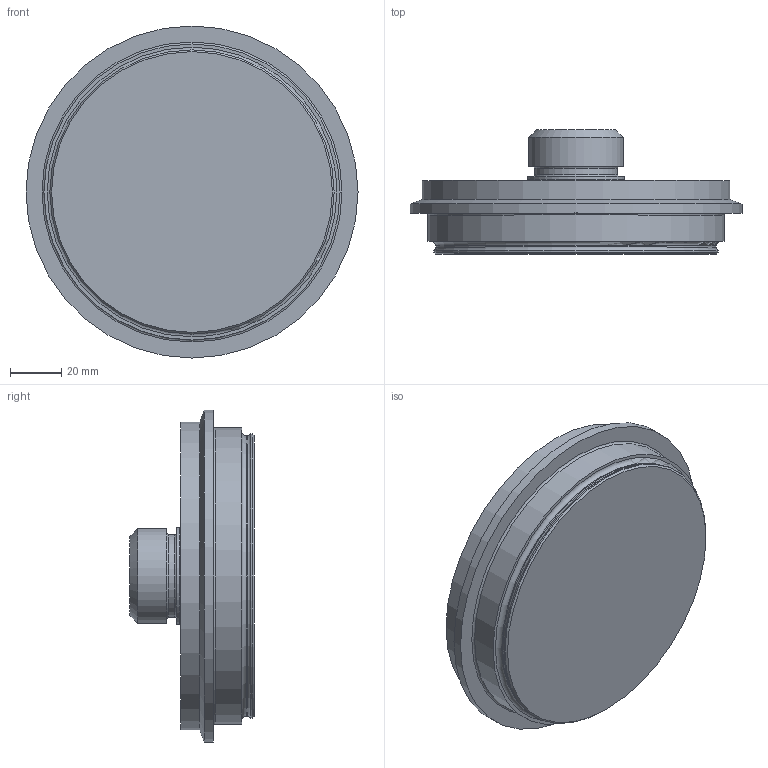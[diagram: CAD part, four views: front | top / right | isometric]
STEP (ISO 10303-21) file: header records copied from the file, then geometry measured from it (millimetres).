
FILE_DESCRIPTION(/* description */ ('STEP AP214'),/* implementation_level */ '2;1');
FILE_NAME(/* name */ 'C:\V\Delavan\Designs\Customer Shell Models\Valves\W61\WCB_w60_actuators_controltops_adapters_step_tcm11-10646 (2)\102410 4.STEP',/* time_stamp */ '2021-04-21T13:04:14+06:00',/* author */ ('H7M44K'),/* organization */ (''),/* preprocessor_version */ 'ST-DEVELOPER v18.1',/* originating_system */ 'Autodesk Inventor 2020',/* authorisation */ '');
FILE_SCHEMA (('AUTOMOTIVE_DESIGN { 1 0 10303 214 3 1 1 }'));
Length unit declared in the file: inch
Products named in the file (1): 102410
Bounding box: 130.18 x 48.77 x 130.18 mm (x, y, z)
Volume: 339653.5 mm3; surface area: 39084.5 mm2
Topology: 1 solids, 1 shells, 24 faces, 68 edges, 51 vertices
Faces by surface type: cylinder 8, plane 7, torus 6, cone 3
Full cylindrical faces by diameter (mm): 32.512 x1, 37.135 x1, 38.1 x1, 109.982 x1, 111.455 x1, 116.103 x1, 120.65 x1, 130.175 x1
Entity records: 1080 total; most frequent: CARTESIAN_POINT 342, DIRECTION 171, ORIENTED_EDGE 136, AXIS2_PLACEMENT_3D 80, EDGE_CURVE 68, CIRCLE 55, VERTEX_POINT 51, EDGE_LOOP 29
